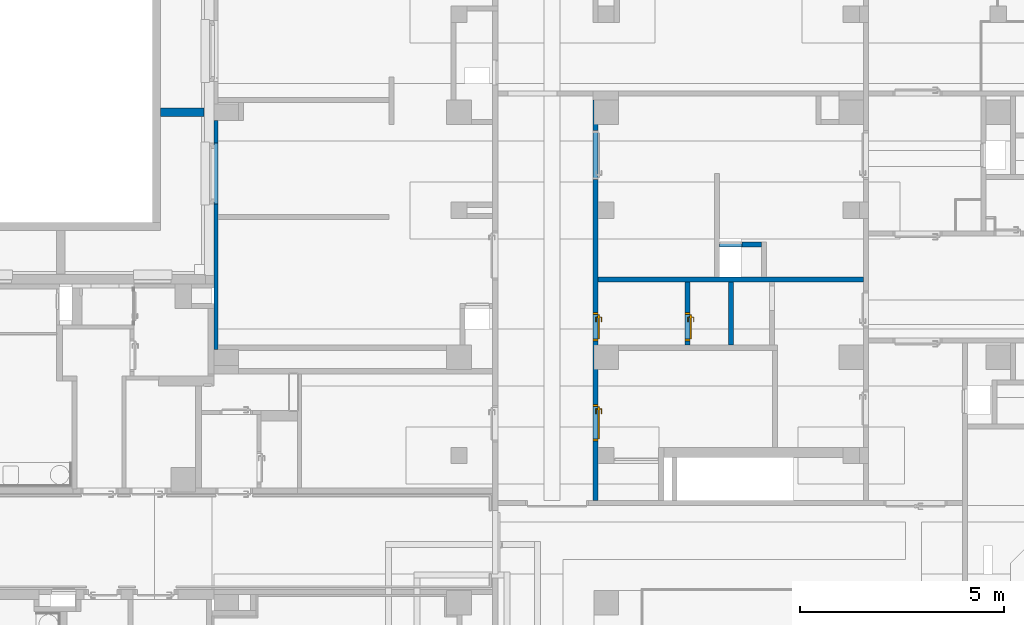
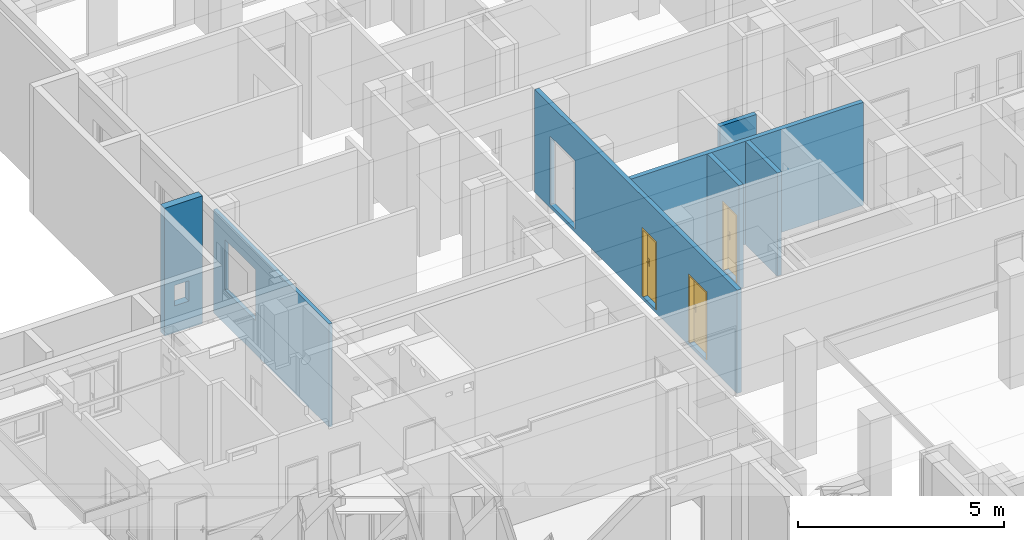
# One storey, part 30 of 84: 7 walls, 3 doors, 7 openings.
"""IFC4 building model written with IfcOpenShell, lengths in metres."""

from ifc_helpers import new_model, entity, si_unit, converted_unit, derived_unit, frame, frame_2d, origin, origin_with_axes, place, context, subcontext, project, spatial, polyline, rectangle, outline, extrude, closed_shell, open_shell, surface_model, source, transform, mapped, material, layer, layer_set, layer_usage, type_object, element, fill, save


model = new_model("IFC4")

# Units and contexts
model_context = context("Model", 3, precision=1e-05, world=origin())
body_context = subcontext(model_context, "Body", "Model", "MODEL_VIEW")
ifc_project = project(units=[si_unit("LENGTHUNIT", "METRE"), si_unit("AREAUNIT", "SQUARE_METRE"), si_unit("VOLUMEUNIT", "CUBIC_METRE"), si_unit("MASSUNIT", "GRAM", prefix="KILO"), converted_unit("PLANEANGLEUNIT", "DEGREE", entity("IfcPlaneAngleMeasure", 0.0174532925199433), si_unit("PLANEANGLEUNIT", "RADIAN"), dimensions=[0, 0, 0, 0, 0, 0, 0]), derived_unit("THERMALTRANSMITTANCEUNIT", [(si_unit("POWERUNIT", "WATT"), 1), (si_unit("THERMODYNAMICTEMPERATUREUNIT", "KELVIN"), -1), (si_unit("LENGTHUNIT", "METRE"), -2)]), derived_unit("VOLUMETRICFLOWRATEUNIT", [(si_unit("LENGTHUNIT", "METRE"), 3), (converted_unit("TIMEUNIT", "hour", entity("IfcTimeMeasure", 3600.0), si_unit("TIMEUNIT", "SECOND"), dimensions=[0, 0, 1, 0, 0, 0, 0]), -1), (si_unit("LENGTHUNIT", "METRE"), -1)])], contexts=[model_context])

# Site, building, storey
site_placement = place(None, origin())
site = spatial("IfcSite", under=ifc_project, at=site_placement, Name="3. ASŘ", CompositionType="ELEMENT")
building_placement = place(site_placement, origin())
building = spatial("IfcBuilding", under=site, at=building_placement, Name="Pavilon C", CompositionType="ELEMENT")
storey_placement = place(building_placement, frame((0.0, 0.0, -3.3)))
storey = spatial("IfcBuildingStorey", under=building, at=storey_placement, Name="Půdorys 1.PP", CompositionType="ELEMENT", Elevation=-3.3)

# Wall, opening
ifc_material_1 = material(Name="ZELEZOBETONOVÁ KCE")
ifc_layer_1 = layer(ifc_material_1, 0.2)
ifc_layer_set_1 = layer_set([ifc_layer_1])
ifc_layer_usage_1 = layer_usage(ifc_layer_set_1, "AXIS2", "POSITIVE", -0.1)
wall_1_placement = place(storey_placement, frame((23.445, 19.1, -0.4)))
wall_1 = element("IfcWall", 1, at=wall_1_placement, inside=storey, material=ifc_layer_usage_1, Name="ZELEZOBETONOVÁ KCE", context=body_context, shape_type="SweptSolid", body=[
    extrude(rectangle(XDim=1.06, YDim=0.2, at=frame_2d((0.53, 0.1), x_axis=(1.0, 0.0))), origin_with_axes(), (0.0, 0.0, 1.0), 3.78),
])
opening_1_placement = place(wall_1_placement, frame((0.279999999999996, 0.0, 0.8), z_axis=(0.0, 1.0, 0.0), x_axis=(0.0, 0.0, 1.0)))
element("IfcOpeningElement", 2, at=opening_1_placement, cuts=wall_1, Name="Prostup stěnou", ObjectType="Opening", context=body_context, shape_type="SweptSolid", body=[
    extrude(outline(polyline([(0.0, 0.4), (0.6, 0.4), (0.6, 0.0), (0.0, 0.0), (0.0, 0.4)])), origin_with_axes(), (0.0, 0.0, 1.0), 0.2),
])

ifc_material_2 = material(Name="PÓROBETONOVÉ ZDIVO")
ifc_layer_2 = layer(ifc_material_2, 0.1)
ifc_layer_set_2 = layer_set([ifc_layer_2])
ifc_layer_usage_2 = layer_usage(ifc_layer_set_2, "AXIS2", "POSITIVE", 0.0)
wall_2_placement = place(storey_placement, frame((24.75, 19.0, -0.1), z_axis=(0.0, 0.0, 1.0), x_axis=(0.0, -1.0, 0.0)))
wall_2 = element("IfcWall", 3, at=wall_2_placement, inside=storey, material=ifc_layer_usage_2, Name="PÓROBETONOVÉ ZDIVO", context=body_context, shape_type="SweptSolid", body=[
    extrude(rectangle(XDim=5.6, YDim=0.1, at=frame_2d((2.8, 0.05), x_axis=(1.0, 0.0))), origin_with_axes(), (0.0, 0.0, 1.0), 3.05),
])
opening_2_placement = place(wall_2_placement, frame((2.05, 0.1, 1.0), z_axis=(0.0, -1.0, 0.0), x_axis=(0.0, 0.0, 1.0)))
element("IfcOpeningElement", 4, at=opening_2_placement, cuts=wall_2, Name="Okenní otvor", ObjectType="Opening", context=body_context, shape_type="SweptSolid", body=[
    extrude(outline(polyline([(0.0, 1.5), (1.5, 1.5), (1.5, 0.0), (0.0, 0.0), (0.0, 1.5)])), origin_with_axes(), (0.0, 0.0, 1.0), 0.1),
])

# Wall, openings, doors
ifc_material_3 = material(Name="ZDIVO Z CDm")
ifc_layer_3 = layer(ifc_material_3, 0.125)
ifc_layer_set_3 = layer_set([ifc_layer_3])
ifc_layer_usage_3 = layer_usage(ifc_layer_set_3, "AXIS2", "POSITIVE", 0.0)
wall_3_placement = place(storey_placement, frame((34.15, 9.69999999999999, -0.1), z_axis=(0.0, 0.0, 1.0), x_axis=(0.0, 1.0, 0.0)))
wall_3 = element("IfcWall", 5, at=wall_3_placement, inside=storey, material=ifc_layer_usage_3, Name="ZDIVO Z CDm", context=body_context, shape_type="SweptSolid", body=[
    extrude(rectangle(XDim=9.8, YDim=0.125, at=frame_2d((4.9, 0.0625), x_axis=(1.0, 0.0))), origin_with_axes(), (0.0, 0.0, 1.0), 3.05),
])
opening_3_placement = place(wall_3_placement, frame((3.9, 0.0, 0.1), z_axis=(0.0, 1.0, 0.0), x_axis=(0.0, 0.0, 1.0)))
opening_3 = element("IfcOpeningElement", 6, at=opening_3_placement, cuts=wall_3, Name="Dveřní otvor", ObjectType="Opening", context=body_context, shape_type="SweptSolid", body=[
    extrude(outline(polyline([(0.0, 0.7), (2.02, 0.7), (2.02, 0.0), (0.0, 0.0), (0.0, 0.7)])), origin_with_axes(), (0.0, 0.0, 1.0), 0.125),
])
opening_4_placement = place(wall_3_placement, frame((9.05000000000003, 0.125, 0.1), z_axis=(0.0, -1.0, 0.0), x_axis=(0.0, 0.0, 1.0)))
element("IfcOpeningElement", 7, at=opening_4_placement, cuts=wall_3, Name="Dveřní otvor", ObjectType="Opening", context=body_context, shape_type="SweptSolid", body=[
    extrude(outline(polyline([(0.0, 1.2), (2.02, 1.2), (2.02, 0.0), (0.0, 0.0), (0.0, 1.2)])), origin_with_axes(), (0.0, 0.0, 1.0), 0.125),
])
opening_5_placement = place(wall_3_placement, frame((2.35, 0.125, 0.1), z_axis=(0.0, -1.0, 0.0), x_axis=(0.0, 0.0, 1.0)))
opening_5 = element("IfcOpeningElement", 8, at=opening_5_placement, cuts=wall_3, Name="Dveřní otvor", ObjectType="Opening", context=body_context, shape_type="SweptSolid", body=[
    extrude(outline(polyline([(0.0, 0.9), (2.02, 0.9), (2.02, 0.0), (0.0, 0.0), (0.0, 0.9)])), origin_with_axes(), (0.0, 0.0, 1.0), 0.125),
])
door_type_1 = type_object("IfcDoorType", Name="D101", OperationType="NOTDEFINED", ParameterTakesPrecedence=False, PredefinedType="DOOR")
shared_shape_1 = source(origin_with_axes(), body_context, "Body", "SurfaceModel", [
    surface_model("IfcShellBasedSurfaceModel", [(0.0, 0.125, 2.02), (0.0, 0.125, -7.65404249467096e-18), (0.05, 0.125, -7.65404249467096e-18), (0.05, 0.125, 2.02), (0.0, 0.0, 7.65404249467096e-18), (0.0, 2.41584530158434e-16, 2.02), (0.05, 2.41584530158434e-16, 2.02), (0.05, 0.0, 7.65404249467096e-18)], [closed_shell([[[0, 1, 2, 3]], [[4, 5, 6, 7]], [[1, 0, 5, 4]], [[2, 1, 4, 7]], [[3, 2, 7, 6]], [[0, 3, 6, 5]]], orient=[[False], [False], [False], [False], [False], [False]])]),
    surface_model("IfcShellBasedSurfaceModel", [(0.85, 0.125, 2.02), (0.85, 0.125, -7.65404249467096e-18), (0.9, 0.125, -7.65404249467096e-18), (0.9, 0.125, 2.02), (0.85, 0.0, 7.65404249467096e-18), (0.85, 2.41584530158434e-16, 2.02), (0.9, 2.41584530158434e-16, 2.02), (0.9, 0.0, 7.65404249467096e-18)], [closed_shell([[[0, 1, 2, 3]], [[4, 5, 6, 7]], [[1, 0, 5, 4]], [[2, 1, 4, 7]], [[3, 2, 7, 6]], [[0, 3, 6, 5]]], orient=[[False], [False], [False], [False], [False], [False]])]),
    surface_model("IfcShellBasedSurfaceModel", [(0.05, 0.125, 2.02), (0.05, 0.125, 1.97), (0.85, 0.125, 1.97), (0.85, 0.125, 2.02), (0.05, 2.41584530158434e-16, 1.97), (0.05, 2.41584530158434e-16, 2.02), (0.85, 2.41584530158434e-16, 2.02), (0.85, 2.41584530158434e-16, 1.97)], [closed_shell([[[0, 1, 2, 3]], [[4, 5, 6, 7]], [[1, 0, 5, 4]], [[2, 1, 4, 7]], [[3, 2, 7, 6]], [[0, 3, 6, 5]]], orient=[[False], [False], [False], [False], [False], [False]])]),
    surface_model("IfcShellBasedSurfaceModel", [(0.05, 0.165, 1.97), (0.05, 0.165, -1.25526296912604e-17), (0.85, 0.165, -1.25526296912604e-17), (0.85, 0.165, 1.97), (0.05, 0.125, -7.65404249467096e-18), (0.05, 0.125, 1.97), (0.85, 0.125, 1.97), (0.85, 0.125, -7.65404249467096e-18)], [closed_shell([[[0, 1, 2, 3]], [[4, 5, 6, 7]], [[1, 0, 5, 4]], [[2, 1, 4, 7]], [[3, 2, 7, 6]], [[0, 3, 6, 5]]], orient=[[False], [False], [False], [False], [False], [False]])]),
    surface_model("IfcShellBasedSurfaceModel", [(0.76, 0.125, 1.125), (0.76, 0.125, 0.91), (0.81, 0.125, 0.91), (0.81, 0.125, 1.125), (0.76, 0.115, 0.91), (0.76, 0.115, 1.125), (0.81, 0.115, 1.125), (0.81, 0.115, 0.91)], [closed_shell([[[0, 1, 2, 3]], [[4, 5, 6, 7]], [[1, 0, 5, 4]], [[2, 1, 4, 7]], [[3, 2, 7, 6]], [[0, 3, 6, 5]]], orient=[[False], [False], [False], [False], [False], [False]])]),
    surface_model("IfcShellBasedSurfaceModel", [(0.785, 0.115, 1.06), (0.78, 0.115, 1.05866025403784), (0.776339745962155, 0.115, 1.055), (0.775, 0.115, 1.05), (0.776339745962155, 0.115, 1.045), (0.78, 0.115, 1.04133974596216), (0.785, 0.115, 1.04), (0.79, 0.115, 1.04133974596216), (0.793660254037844, 0.115, 1.045), (0.795, 0.115, 1.05), (0.793660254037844, 0.115, 1.055), (0.79, 0.115, 1.05866025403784), (0.79, 0.0700000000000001, 1.05866025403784), (0.785, 0.0750000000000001, 1.06), (0.793660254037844, 0.0663397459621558, 1.055), (0.795, 0.0650000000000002, 1.05), (0.793660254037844, 0.0663397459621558, 1.045), (0.79, 0.0700000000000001, 1.04133974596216), (0.785, 0.0750000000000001, 1.04), (0.78, 0.0800000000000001, 1.04133974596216), (0.776339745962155, 0.0836602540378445, 1.045), (0.775, 0.0850000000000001, 1.05), (0.776339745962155, 0.0836602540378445, 1.055), (0.78, 0.0800000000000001, 1.05866025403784), (0.67, 0.0700000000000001, 1.05866025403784), (0.67, 0.0750000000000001, 1.06), (0.67, 0.0663397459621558, 1.055), (0.67, 0.0650000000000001, 1.05), (0.67, 0.0663397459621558, 1.045), (0.67, 0.0700000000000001, 1.04133974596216), (0.67, 0.0750000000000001, 1.04), (0.67, 0.0800000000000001, 1.04133974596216), (0.67, 0.0836602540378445, 1.045), (0.67, 0.0850000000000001, 1.05), (0.67, 0.0836602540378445, 1.055), (0.67, 0.0800000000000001, 1.05866025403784)], [open_shell([[[0, 1, 2, 3, 4, 5, 6, 7, 8, 9, 10, 11]], [[0, 11, 12, 13]], [[11, 10, 14, 12]], [[10, 9, 15, 14]], [[9, 8, 16, 15]], [[8, 7, 17, 16]], [[7, 6, 18, 17]], [[6, 5, 19, 18]], [[5, 4, 20, 19]], [[4, 3, 21, 20]], [[3, 2, 22, 21]], [[2, 1, 23, 22]], [[1, 0, 13, 23]], [[13, 12, 24, 25]], [[12, 14, 26, 24]], [[14, 15, 27, 26]], [[15, 16, 28, 27]], [[16, 17, 29, 28]], [[17, 18, 30, 29]], [[18, 19, 31, 30]], [[19, 20, 32, 31]], [[20, 21, 33, 32]], [[21, 22, 34, 33]], [[22, 23, 35, 34]], [[23, 13, 25, 35]]], orient=[[False], [False], [False], [False], [False], [False], [False], [False], [False], [False], [False], [False], [False], [False], [False], [False], [False], [False], [False], [False], [False], [False], [False], [False], [False]])]),
    surface_model("IfcShellBasedSurfaceModel", [(0.76, 0.165, 1.125), (0.81, 0.165, 1.125), (0.81, 0.165, 0.91), (0.76, 0.165, 0.91), (0.76, 0.175, 0.91), (0.81, 0.175, 0.91), (0.81, 0.175, 1.125), (0.76, 0.175, 1.125)], [closed_shell([[[0, 1, 2, 3]], [[4, 5, 6, 7]], [[3, 4, 7, 0]], [[2, 5, 4, 3]], [[1, 6, 5, 2]], [[0, 7, 6, 1]]], orient=[[False], [False], [False], [False], [False], [False]])]),
    surface_model("IfcShellBasedSurfaceModel", [(0.785, 0.175, 1.06), (0.79, 0.175, 1.05866025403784), (0.793660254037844, 0.175, 1.055), (0.795, 0.175, 1.05), (0.793660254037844, 0.175, 1.045), (0.79, 0.175, 1.04133974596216), (0.785, 0.175, 1.04), (0.78, 0.175, 1.04133974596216), (0.776339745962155, 0.175, 1.045), (0.775, 0.175, 1.05), (0.776339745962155, 0.175, 1.055), (0.78, 0.175, 1.05866025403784), (0.785, 0.215, 1.06), (0.79, 0.22, 1.05866025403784), (0.793660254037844, 0.223660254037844, 1.055), (0.795, 0.225, 1.05), (0.793660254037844, 0.223660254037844, 1.045), (0.79, 0.22, 1.04133974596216), (0.785, 0.215, 1.04), (0.78, 0.21, 1.04133974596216), (0.776339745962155, 0.206339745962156, 1.045), (0.775, 0.205, 1.05), (0.776339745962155, 0.206339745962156, 1.055), (0.78, 0.21, 1.05866025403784), (0.67, 0.215, 1.06), (0.67, 0.22, 1.05866025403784), (0.67, 0.223660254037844, 1.055), (0.67, 0.225, 1.05), (0.67, 0.223660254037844, 1.045), (0.67, 0.22, 1.04133974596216), (0.67, 0.215, 1.04), (0.67, 0.21, 1.04133974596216), (0.67, 0.206339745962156, 1.045), (0.67, 0.205, 1.05), (0.67, 0.206339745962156, 1.055), (0.67, 0.21, 1.05866025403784)], [open_shell([[[0, 1, 2, 3, 4, 5, 6, 7, 8, 9, 10, 11]], [[0, 12, 13, 1]], [[1, 13, 14, 2]], [[2, 14, 15, 3]], [[3, 15, 16, 4]], [[4, 16, 17, 5]], [[5, 17, 18, 6]], [[6, 18, 19, 7]], [[7, 19, 20, 8]], [[8, 20, 21, 9]], [[9, 21, 22, 10]], [[10, 22, 23, 11]], [[11, 23, 12, 0]], [[12, 24, 25, 13]], [[13, 25, 26, 14]], [[14, 26, 27, 15]], [[15, 27, 28, 16]], [[16, 28, 29, 17]], [[17, 29, 30, 18]], [[18, 30, 31, 19]], [[19, 31, 32, 20]], [[20, 32, 33, 21]], [[21, 33, 34, 22]], [[22, 34, 35, 23]], [[23, 35, 24, 12]]], orient=[[False], [False], [False], [False], [False], [False], [False], [False], [False], [False], [False], [False], [False], [False], [False], [False], [False], [False], [False], [False], [False], [False], [False], [False], [False]])]),
])
door_1_placement = place(opening_5_placement, frame((0.0, 0.900000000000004, -1.45519152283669e-14), z_axis=(1.0, 0.0, 0.0), x_axis=(0.0, -1.0, -1.22464679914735e-16)))
door_1 = element("IfcDoor", 9, at=door_1_placement, inside=storey, type_object=door_type_1, Name="D101", OverallHeight=2.02, OverallWidth=0.9, context=body_context, shape_type="MappedRepresentation", body=[
    mapped(shared_shape_1, transform((0.0, 0.0, 0.0), x_axis=(1.0, 0.0, 0.0), y_axis=(0.0, -1.0, 0.0), z_axis=(0.0, 0.0, 1.0), scale=1.0)),
])
fill(opening_5, door_1)
door_type_2 = type_object("IfcDoorType", Name="D101", OperationType="NOTDEFINED", ParameterTakesPrecedence=False, PredefinedType="DOOR")
shared_shape_2 = source(origin_with_axes(), body_context, "Body", "SurfaceModel", [
    surface_model("IfcShellBasedSurfaceModel", [(0.0, 0.125, 2.02), (0.0, 0.125, -7.65404249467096e-18), (0.05, 0.125, -7.65404249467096e-18), (0.05, 0.125, 2.02), (0.0, 0.0, 7.65404249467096e-18), (0.0, 2.41584530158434e-16, 2.02), (0.05, 2.41584530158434e-16, 2.02), (0.05, 0.0, 7.65404249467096e-18)], [closed_shell([[[0, 1, 2, 3]], [[4, 5, 6, 7]], [[1, 0, 5, 4]], [[2, 1, 4, 7]], [[3, 2, 7, 6]], [[0, 3, 6, 5]]], orient=[[False], [False], [False], [False], [False], [False]])]),
    surface_model("IfcShellBasedSurfaceModel", [(0.65, 0.125, 2.02), (0.65, 0.125, -7.65404249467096e-18), (0.7, 0.125, -7.65404249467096e-18), (0.7, 0.125, 2.02), (0.65, 0.0, 7.65404249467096e-18), (0.65, 2.41584530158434e-16, 2.02), (0.7, 2.41584530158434e-16, 2.02), (0.7, 0.0, 7.65404249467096e-18)], [closed_shell([[[0, 1, 2, 3]], [[4, 5, 6, 7]], [[1, 0, 5, 4]], [[2, 1, 4, 7]], [[3, 2, 7, 6]], [[0, 3, 6, 5]]], orient=[[False], [False], [False], [False], [False], [False]])]),
    surface_model("IfcShellBasedSurfaceModel", [(0.05, 0.125, 2.02), (0.05, 0.125, 1.97), (0.65, 0.125, 1.97), (0.65, 0.125, 2.02), (0.05, 2.41584530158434e-16, 1.97), (0.05, 2.41584530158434e-16, 2.02), (0.65, 2.41584530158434e-16, 2.02), (0.65, 2.41584530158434e-16, 1.97)], [closed_shell([[[0, 1, 2, 3]], [[4, 5, 6, 7]], [[1, 0, 5, 4]], [[2, 1, 4, 7]], [[3, 2, 7, 6]], [[0, 3, 6, 5]]], orient=[[False], [False], [False], [False], [False], [False]])]),
    surface_model("IfcShellBasedSurfaceModel", [(0.05, 0.165, 1.97), (0.05, 0.165, -1.25526296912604e-17), (0.65, 0.165, -1.25526296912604e-17), (0.65, 0.165, 1.97), (0.05, 0.125, -7.65404249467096e-18), (0.05, 0.125, 1.97), (0.65, 0.125, 1.97), (0.65, 0.125, -7.65404249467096e-18)], [closed_shell([[[0, 1, 2, 3]], [[4, 5, 6, 7]], [[1, 0, 5, 4]], [[2, 1, 4, 7]], [[3, 2, 7, 6]], [[0, 3, 6, 5]]], orient=[[False], [False], [False], [False], [False], [False]])]),
    surface_model("IfcShellBasedSurfaceModel", [(0.56, 0.125, 1.125), (0.56, 0.125, 0.91), (0.61, 0.125, 0.91), (0.61, 0.125, 1.125), (0.56, 0.115, 0.91), (0.56, 0.115, 1.125), (0.61, 0.115, 1.125), (0.61, 0.115, 0.91)], [closed_shell([[[0, 1, 2, 3]], [[4, 5, 6, 7]], [[1, 0, 5, 4]], [[2, 1, 4, 7]], [[3, 2, 7, 6]], [[0, 3, 6, 5]]], orient=[[False], [False], [False], [False], [False], [False]])]),
    surface_model("IfcShellBasedSurfaceModel", [(0.585, 0.115, 1.06), (0.58, 0.115, 1.05866025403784), (0.576339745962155, 0.115, 1.055), (0.575, 0.115, 1.05), (0.576339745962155, 0.115, 1.045), (0.58, 0.115, 1.04133974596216), (0.585, 0.115, 1.04), (0.59, 0.115, 1.04133974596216), (0.593660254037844, 0.115, 1.045), (0.595, 0.115, 1.05), (0.593660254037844, 0.115, 1.055), (0.59, 0.115, 1.05866025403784), (0.59, 0.0700000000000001, 1.05866025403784), (0.585, 0.0750000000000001, 1.06), (0.593660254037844, 0.0663397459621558, 1.055), (0.595, 0.0650000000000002, 1.05), (0.593660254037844, 0.0663397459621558, 1.045), (0.59, 0.0700000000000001, 1.04133974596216), (0.585, 0.0750000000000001, 1.04), (0.58, 0.0800000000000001, 1.04133974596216), (0.576339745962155, 0.0836602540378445, 1.045), (0.575, 0.0850000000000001, 1.05), (0.576339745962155, 0.0836602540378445, 1.055), (0.58, 0.0800000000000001, 1.05866025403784), (0.47, 0.0700000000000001, 1.05866025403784), (0.47, 0.0750000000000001, 1.06), (0.47, 0.0663397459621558, 1.055), (0.47, 0.0650000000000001, 1.05), (0.47, 0.0663397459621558, 1.045), (0.47, 0.0700000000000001, 1.04133974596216), (0.47, 0.0750000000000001, 1.04), (0.47, 0.0800000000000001, 1.04133974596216), (0.47, 0.0836602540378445, 1.045), (0.47, 0.0850000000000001, 1.05), (0.47, 0.0836602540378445, 1.055), (0.47, 0.0800000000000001, 1.05866025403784)], [open_shell([[[0, 1, 2, 3, 4, 5, 6, 7, 8, 9, 10, 11]], [[0, 11, 12, 13]], [[11, 10, 14, 12]], [[10, 9, 15, 14]], [[9, 8, 16, 15]], [[8, 7, 17, 16]], [[7, 6, 18, 17]], [[6, 5, 19, 18]], [[5, 4, 20, 19]], [[4, 3, 21, 20]], [[3, 2, 22, 21]], [[2, 1, 23, 22]], [[1, 0, 13, 23]], [[13, 12, 24, 25]], [[12, 14, 26, 24]], [[14, 15, 27, 26]], [[15, 16, 28, 27]], [[16, 17, 29, 28]], [[17, 18, 30, 29]], [[18, 19, 31, 30]], [[19, 20, 32, 31]], [[20, 21, 33, 32]], [[21, 22, 34, 33]], [[22, 23, 35, 34]], [[23, 13, 25, 35]]], orient=[[False], [False], [False], [False], [False], [False], [False], [False], [False], [False], [False], [False], [False], [False], [False], [False], [False], [False], [False], [False], [False], [False], [False], [False], [False]])]),
    surface_model("IfcShellBasedSurfaceModel", [(0.56, 0.165, 1.125), (0.61, 0.165, 1.125), (0.61, 0.165, 0.91), (0.56, 0.165, 0.91), (0.56, 0.175, 0.91), (0.61, 0.175, 0.91), (0.61, 0.175, 1.125), (0.56, 0.175, 1.125)], [closed_shell([[[0, 1, 2, 3]], [[4, 5, 6, 7]], [[3, 4, 7, 0]], [[2, 5, 4, 3]], [[1, 6, 5, 2]], [[0, 7, 6, 1]]], orient=[[False], [False], [False], [False], [False], [False]])]),
    surface_model("IfcShellBasedSurfaceModel", [(0.585, 0.175, 1.06), (0.59, 0.175, 1.05866025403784), (0.593660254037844, 0.175, 1.055), (0.595, 0.175, 1.05), (0.593660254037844, 0.175, 1.045), (0.59, 0.175, 1.04133974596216), (0.585, 0.175, 1.04), (0.58, 0.175, 1.04133974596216), (0.576339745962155, 0.175, 1.045), (0.575, 0.175, 1.05), (0.576339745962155, 0.175, 1.055), (0.58, 0.175, 1.05866025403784), (0.585, 0.215, 1.06), (0.59, 0.22, 1.05866025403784), (0.593660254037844, 0.223660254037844, 1.055), (0.595, 0.225, 1.05), (0.593660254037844, 0.223660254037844, 1.045), (0.59, 0.22, 1.04133974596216), (0.585, 0.215, 1.04), (0.58, 0.21, 1.04133974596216), (0.576339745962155, 0.206339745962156, 1.045), (0.575, 0.205, 1.05), (0.576339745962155, 0.206339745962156, 1.055), (0.58, 0.21, 1.05866025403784), (0.47, 0.215, 1.06), (0.47, 0.22, 1.05866025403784), (0.47, 0.223660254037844, 1.055), (0.47, 0.225, 1.05), (0.47, 0.223660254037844, 1.045), (0.47, 0.22, 1.04133974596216), (0.47, 0.215, 1.04), (0.47, 0.21, 1.04133974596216), (0.47, 0.206339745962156, 1.045), (0.47, 0.205, 1.05), (0.47, 0.206339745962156, 1.055), (0.47, 0.21, 1.05866025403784)], [open_shell([[[0, 1, 2, 3, 4, 5, 6, 7, 8, 9, 10, 11]], [[0, 12, 13, 1]], [[1, 13, 14, 2]], [[2, 14, 15, 3]], [[3, 15, 16, 4]], [[4, 16, 17, 5]], [[5, 17, 18, 6]], [[6, 18, 19, 7]], [[7, 19, 20, 8]], [[8, 20, 21, 9]], [[9, 21, 22, 10]], [[10, 22, 23, 11]], [[11, 23, 12, 0]], [[12, 24, 25, 13]], [[13, 25, 26, 14]], [[14, 26, 27, 15]], [[15, 27, 28, 16]], [[16, 28, 29, 17]], [[17, 29, 30, 18]], [[18, 30, 31, 19]], [[19, 31, 32, 20]], [[20, 32, 33, 21]], [[21, 33, 34, 22]], [[22, 34, 35, 23]], [[23, 35, 24, 12]]], orient=[[False], [False], [False], [False], [False], [False], [False], [False], [False], [False], [False], [False], [False], [False], [False], [False], [False], [False], [False], [False], [False], [False], [False], [False], [False]])]),
])
door_2_placement = place(opening_3_placement, frame((0.0, -3.63797880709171e-15, 0.125000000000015), z_axis=(1.0, 0.0, 0.0), x_axis=(0.0, 1.0, -2.44929359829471e-16)))
door_2 = element("IfcDoor", 10, at=door_2_placement, inside=storey, type_object=door_type_2, Name="D101", OverallHeight=2.02, OverallWidth=0.7, context=body_context, shape_type="MappedRepresentation", body=[
    mapped(shared_shape_2, transform((0.0, 0.0, 0.0), x_axis=(1.0, 0.0, 0.0), y_axis=(0.0, -1.0, 0.0), z_axis=(0.0, 0.0, 1.0), scale=1.0)),
])
fill(opening_3, door_2)

# Wall
ifc_material_4 = material(Name="ZDIVO Z CDm")
ifc_layer_4 = layer(ifc_material_4, 0.125)
ifc_layer_set_4 = layer_set([ifc_layer_4])
ifc_layer_usage_4 = layer_usage(ifc_layer_set_4, "AXIS2", "POSITIVE", 0.0)
wall_4_placement = place(storey_placement, frame((40.65, 15.175, -0.1), z_axis=(0.0, 0.0, 1.0), x_axis=(-1.0, 0.0, 0.0)))
element("IfcWall", 11, at=wall_4_placement, inside=storey, material=ifc_layer_usage_4, Name="ZDIVO Z CDm", context=body_context, shape_type="SweptSolid", body=[
    extrude(rectangle(XDim=6.5, YDim=0.125, at=frame_2d((3.25, 0.0625), x_axis=(1.0, 0.0))), origin_with_axes(), (0.0, 0.0, 1.0), 3.05),
])

# Wall, opening, door
ifc_material_5 = material(Name="ZDIVO Z CDm")
ifc_layer_5 = layer(ifc_material_5, 0.125)
ifc_layer_set_5 = layer_set([ifc_layer_5])
ifc_layer_usage_5 = layer_usage(ifc_layer_set_5, "AXIS2", "POSITIVE", 0.0)
wall_5_placement = place(storey_placement, frame((36.28, 15.05, -0.1), z_axis=(0.0, 0.0, 1.0), x_axis=(0.0, -1.0, 0.0)))
wall_5 = element("IfcWall", 12, at=wall_5_placement, inside=storey, material=ifc_layer_usage_5, Name="ZDIVO Z CDm", context=body_context, shape_type="SweptSolid", body=[
    extrude(rectangle(XDim=1.55, YDim=0.125, at=frame_2d((0.775, 0.0625), x_axis=(1.0, 0.0))), origin_with_axes(), (0.0, 0.0, 1.0), 3.05),
])
opening_6_placement = place(wall_5_placement, frame((1.45, 0.125, 0.1), z_axis=(0.0, -1.0, 0.0), x_axis=(0.0, 0.0, 1.0)))
opening_6 = element("IfcOpeningElement", 13, at=opening_6_placement, cuts=wall_5, Name="Dveřní otvor", ObjectType="Opening", context=body_context, shape_type="SweptSolid", body=[
    extrude(outline(polyline([(0.0, 0.7), (2.02, 0.7), (2.02, 0.0), (0.0, 0.0), (0.0, 0.7)])), origin_with_axes(), (0.0, 0.0, 1.0), 0.125),
])
door_type_3 = type_object("IfcDoorType", Name="D101", OperationType="NOTDEFINED", ParameterTakesPrecedence=False, PredefinedType="DOOR")
door_3_placement = place(opening_6_placement, frame((0.0, -3.63797880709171e-15, 0.125000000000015), z_axis=(1.0, 0.0, 0.0), x_axis=(0.0, 1.0, -2.44929359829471e-16)))
door_3 = element("IfcDoor", 14, at=door_3_placement, inside=storey, type_object=door_type_3, Name="D101", OverallHeight=2.02, OverallWidth=0.7, context=body_context, shape_type="MappedRepresentation", body=[
    mapped(shared_shape_2, transform((0.0, 0.0, 0.0), x_axis=(1.0, 0.0, 0.0), y_axis=(0.0, -1.0, 0.0), z_axis=(0.0, 0.0, 1.0), scale=1.0)),
])
fill(opening_6, door_3)

# Wall
ifc_material_6 = material(Name="ZDIVO Z CDm")
ifc_layer_6 = layer(ifc_material_6, 0.125)
ifc_layer_set_6 = layer_set([ifc_layer_6])
ifc_layer_usage_6 = layer_usage(ifc_layer_set_6, "AXIS2", "POSITIVE", 0.0)
wall_6_placement = place(storey_placement, frame((37.345, 15.05, -0.1), z_axis=(0.0, 0.0, 1.0), x_axis=(0.0, -1.0, 0.0)))
element("IfcWall", 15, at=wall_6_placement, inside=storey, material=ifc_layer_usage_6, Name="ZDIVO Z CDm", context=body_context, shape_type="SweptSolid", body=[
    extrude(rectangle(XDim=1.55, YDim=0.125, at=frame_2d((0.775, 0.0625), x_axis=(1.0, 0.0))), origin_with_axes(), (0.0, 0.0, 1.0), 3.05),
])

# Wall, opening
ifc_material_7 = material(Name="ZDIVO Z CDm")
ifc_layer_7 = layer(ifc_material_7, 0.125)
ifc_layer_set_7 = layer_set([ifc_layer_7])
ifc_layer_usage_7 = layer_usage(ifc_layer_set_7, "AXIS2", "POSITIVE", 0.0)
wall_7_placement = place(storey_placement, frame((38.15, 16.025, -0.1), z_axis=(0.0, 0.0, 1.0), x_axis=(-1.0, 0.0, 0.0)))
wall_7 = element("IfcWall", 16, at=wall_7_placement, inside=storey, material=ifc_layer_usage_7, Name="ZDIVO Z CDm", context=body_context, shape_type="SweptSolid", body=[
    extrude(rectangle(XDim=1.025, YDim=0.125, at=frame_2d((0.5125, 0.0625), x_axis=(1.0, 0.0))), origin_with_axes(), (0.0, 0.0, 1.0), 3.05),
])
opening_7_placement = place(wall_7_placement, frame((0.475, 0.0, 1.1), z_axis=(0.0, 1.0, 0.0), x_axis=(0.0, 0.0, 1.0)))
element("IfcOpeningElement", 17, at=opening_7_placement, cuts=wall_7, Name="Okenní otvor", ObjectType="Opening", context=body_context, shape_type="SweptSolid", body=[
    extrude(outline(polyline([(0.0, 0.55), (1.2, 0.55), (1.2, 0.0), (0.0, 0.0), (0.0, 0.55)])), origin_with_axes(), (0.0, 0.0, 1.0), 0.125),
])

save(model, "model.ifc")
